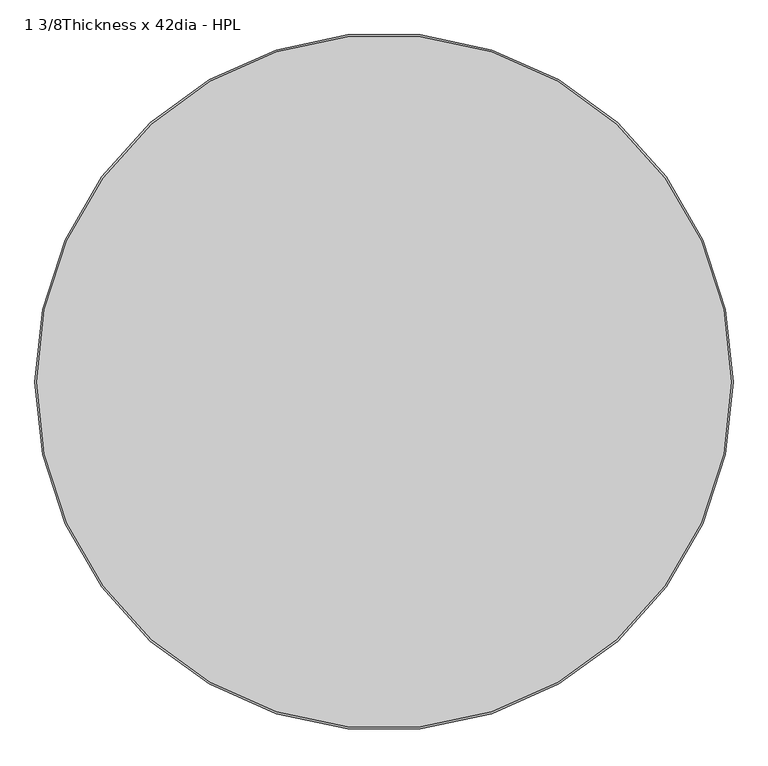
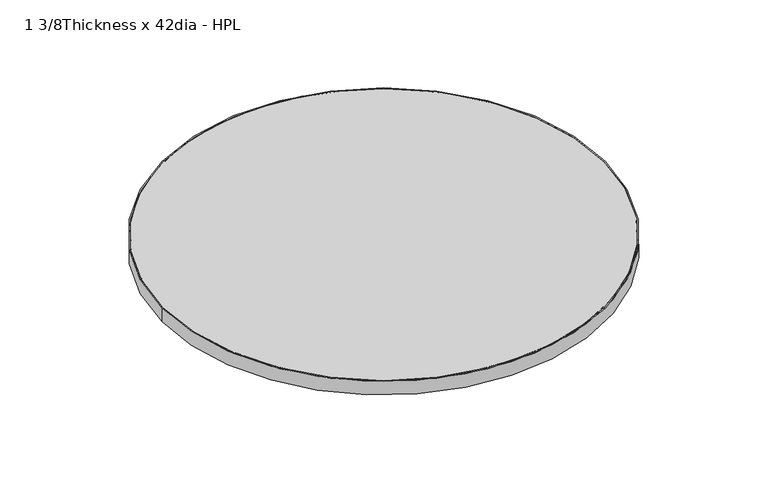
"""IFC4 building model written with IfcOpenShell, lengths in millimetres: furniture geometry, Steelcase - Groupwork - Table - Top - Round : 1 3/8Thickness x 42dia - HPL."""

from ifc_helpers import new_model, si_unit, point, frame, origin, origin_2d, place, context, project, spatial, circle_curve, trimmed, segment, composite_curve, outline, extrude, source, transform, mapped, element, save


def furniture_1_3_8thickness_x_42dia_hpl_e79e7d92(model_context):
    return source(origin(), model_context, "Body", "SweptSolid", [
        extrude(outline(composite_curve([segment(trimmed(circle_curve(origin_2d(), 536.448), [point((-536.448, 0.0))], [point((536.448, 0.0))], False, "CARTESIAN"), True, "CONTINUOUS"), segment(trimmed(circle_curve(origin_2d(), 536.448), [point((536.448, 0.0))], [point((-536.448, 0.0))], False, "CARTESIAN"), True, "CONTINUOUS")], self_intersect=False), holes=[composite_curve([segment(trimmed(circle_curve(origin_2d(), 533.4), [point((533.4, 0.0))], [point((-533.4, 0.0))], True, "CARTESIAN"), True, "CONTINUOUS"), segment(trimmed(circle_curve(origin_2d(), 533.4), [point((-533.4, 0.0))], [point((533.4, 0.0))], True, "CARTESIAN"), True, "CONTINUOUS")], self_intersect=False)]), frame((0.0, 0.0, 695.579), z_axis=(0.0, 0.0, 1.0), x_axis=(1.0, 0.0, 0.0)), (0.0, 0.0, 1.0), 35.052),
        extrude(outline(composite_curve([segment(trimmed(circle_curve(origin_2d(), 533.4), [point((-533.4, 0.0))], [point((533.4, 0.0))], False, "CARTESIAN"), True, "CONTINUOUS"), segment(trimmed(circle_curve(origin_2d(), 533.4), [point((533.4, 0.0))], [point((-533.4, 0.0))], False, "CARTESIAN"), True, "CONTINUOUS")], self_intersect=False)), frame((0.0, 0.0, 695.579), z_axis=(0.0, 0.0, 1.0), x_axis=(1.0, 0.0, 0.0)), (0.0, 0.0, 1.0), 35.052),
    ])


if __name__ == "__main__":
    model = new_model("IFC4")
    model_context = context("Model", 3, world=origin())
    ifc_project = project(units=[si_unit("LENGTHUNIT", "METRE", prefix="MILLI")], contexts=[model_context])
    site = spatial("IfcSite", under=ifc_project)
    building = spatial("IfcBuilding", under=site)
    placement = place(None, origin())
    furniture_1_3_8thickness_x_42dia_hpl_shape = furniture_1_3_8thickness_x_42dia_hpl_e79e7d92(model_context)
    element("IfcFurniture", 1, ObjectType="Steelcase - Groupwork - Table - Top - Round : 1 3/8Thickness x 42dia - HPL", at=placement, inside=building, context=model_context, shape_type="MappedRepresentation", body=[
        mapped(furniture_1_3_8thickness_x_42dia_hpl_shape, transform((0.0, 0.0, 0.0), x_axis=(1.0, 0.0, 0.0), y_axis=(0.0, 1.0, 0.0), z_axis=(0.0, 0.0, 1.0))),
    ])
    save(model, "model.ifc")
